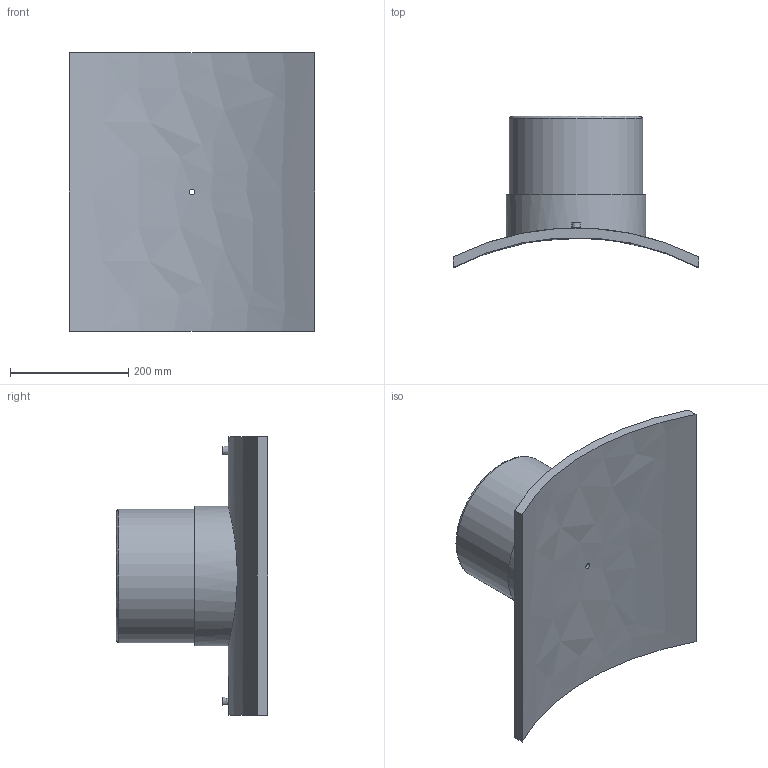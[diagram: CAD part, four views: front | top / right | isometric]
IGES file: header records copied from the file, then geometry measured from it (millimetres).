
Global section: file name: 495803900225T.ipt; native system: Autodesk Inventor 2019; preprocessor: unknown; author: KIM; date: 20210225.095240; units: millimetre
Bounding box: 415 x 255.7 x 470 mm (x, y, z)
Volume: 6290912.5 mm3; surface area: 693590 mm2
Topology: 2 solids, 2 shells, 29 faces, 54 edges, 38 vertices
Faces by surface type: plane 13, revolution 7, cylinder 7, cone 2
Full cylindrical faces by diameter (mm): 4 x2, 16 x1, 225 x1, 236.25 x1
